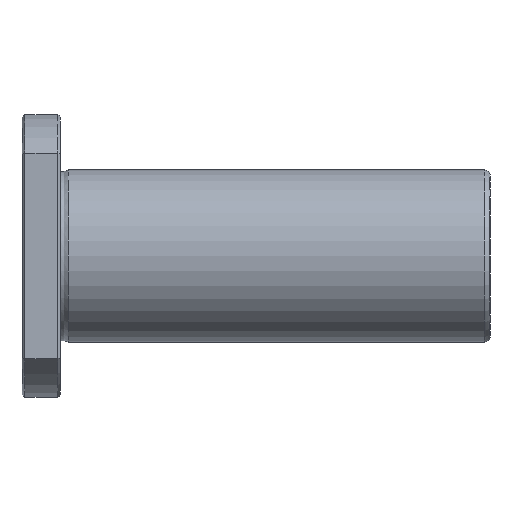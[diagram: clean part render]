
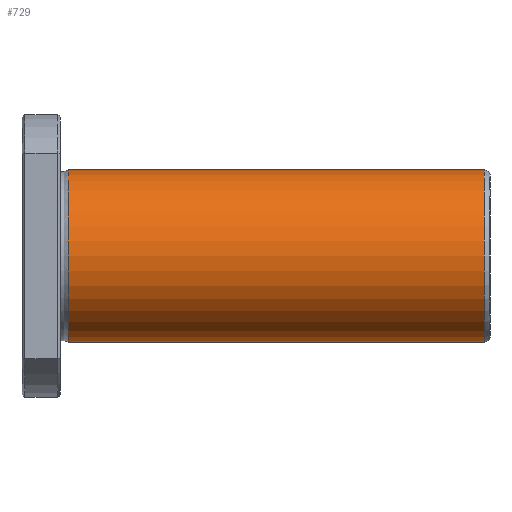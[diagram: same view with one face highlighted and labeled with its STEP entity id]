
A CAD part, front view. The second image highlights one B-rep face of the part: STEP entity #729.
In plain terms, the highlighted cylindrical face has radius 22.5 mm (diameter 45 mm), a full revolution.
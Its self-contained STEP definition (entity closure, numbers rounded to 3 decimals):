
#695=CARTESIAN_POINT('',(120.502,0.0,22.5));
#696=VERTEX_POINT('',#695);
#697=CARTESIAN_POINT('',(120.502,0.0,0.0));
#698=DIRECTION('',(-1.0,0.0,0.0));
#699=DIRECTION('',(0.0,0.0,1.0));
#700=AXIS2_PLACEMENT_3D('',#697,#698,#699);
#701=CIRCLE('',#700,22.5);
#702=EDGE_CURVE('',#696,#696,#701,.T.);
#710=CARTESIAN_POINT('',(66.262,0.0,0.0));
#711=DIRECTION('',(-1.0,0.0,0.0));
#712=DIRECTION('',(0.0,0.0,1.0));
#713=AXIS2_PLACEMENT_3D('',#710,#711,#712);
#714=CYLINDRICAL_SURFACE('',#713,22.5);
#715=CARTESIAN_POINT('',(12.023,0.0,22.5));
#716=VERTEX_POINT('',#715);
#717=CARTESIAN_POINT('',(12.023,0.0,0.0));
#718=DIRECTION('',(-1.0,0.0,0.0));
#719=DIRECTION('',(0.0,0.0,1.0));
#720=AXIS2_PLACEMENT_3D('',#717,#718,#719);
#721=CIRCLE('',#720,22.5);
#722=EDGE_CURVE('',#716,#716,#721,.T.);
#723=ORIENTED_EDGE('',*,*,#722,.F.);
#724=EDGE_LOOP('',(#723));
#725=FACE_OUTER_BOUND('',#724,.T.);
#726=ORIENTED_EDGE('',*,*,#702,.T.);
#727=EDGE_LOOP('',(#726));
#728=FACE_BOUND('',#727,.T.);
#729=ADVANCED_FACE('',(#725,#728),#714,.T.);
